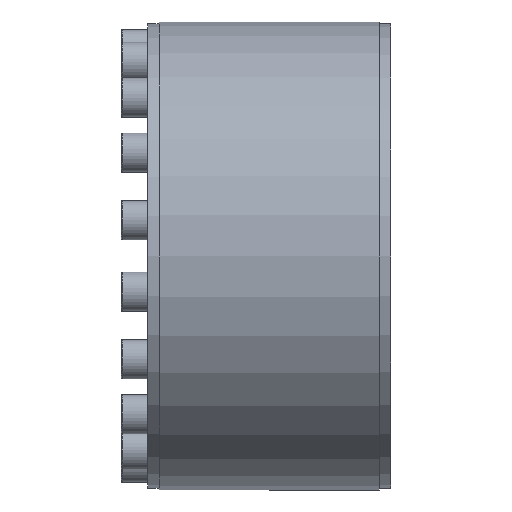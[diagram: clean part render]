
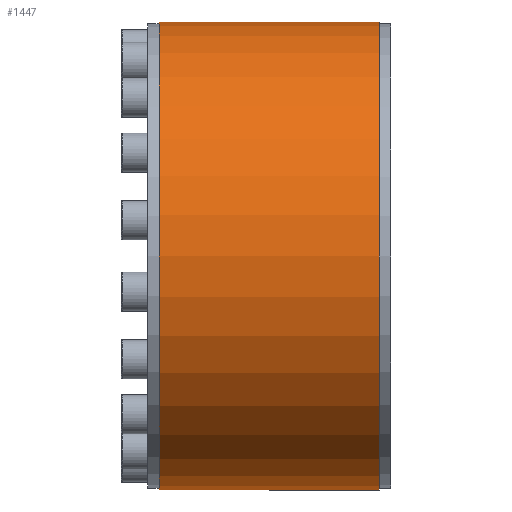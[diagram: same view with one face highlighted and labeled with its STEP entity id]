
A CAD part, left-side view. The second image highlights one B-rep face of the part: STEP entity #1447.
In plain terms, the highlighted cylindrical face has radius 142.5 mm (diameter 285 mm), a partial arc.
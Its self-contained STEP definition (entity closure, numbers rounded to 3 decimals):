
#768 = CARTESIAN_POINT ( 'NONE',  ( 0., 0., 0. ) ) ;
#788 = CARTESIAN_POINT ( 'NONE',  ( 0., 0., 142.5 ) ) ;
#853 = EDGE_LOOP ( 'NONE', ( #2547, #1070, #4213, #2923 ) ) ;
#958 = VERTEX_POINT ( 'NONE', #2811 ) ;
#1024 = AXIS2_PLACEMENT_3D ( 'NONE', #4856, #5370, #2826 ) ;
#1070 = ORIENTED_EDGE ( 'NONE', *, *, #6354, .T. ) ;
#1220 = AXIS2_PLACEMENT_3D ( 'NONE', #768, #6298, #4211 ) ;
#1447 = ADVANCED_FACE ( 'NONE', ( #4377 ), #6448, .T. ) ;
#1930 = DIRECTION ( 'NONE',  ( 0., 0., -1. ) ) ;
#2143 = LINE ( 'NONE', #788, #4483 ) ;
#2212 = DIRECTION ( 'NONE',  ( 0., -1., 0. ) ) ;
#2219 = VECTOR ( 'NONE', #6122, 1000. ) ;
#2547 = ORIENTED_EDGE ( 'NONE', *, *, #4399, .F. ) ;
#2613 = VERTEX_POINT ( 'NONE', #3769 ) ;
#2811 = CARTESIAN_POINT ( 'NONE',  ( 0., 67., 142.5 ) ) ;
#2826 = DIRECTION ( 'NONE',  ( 0., 0., -1. ) ) ;
#2914 = CARTESIAN_POINT ( 'NONE',  ( 0., -67., -142.5 ) ) ;
#2923 = ORIENTED_EDGE ( 'NONE', *, *, #6150, .F. ) ;
#2992 = LINE ( 'NONE', #4076, #2219 ) ;
#3240 = VERTEX_POINT ( 'NONE', #6375 ) ;
#3769 = CARTESIAN_POINT ( 'NONE',  ( 0., -67., 142.5 ) ) ;
#4076 = CARTESIAN_POINT ( 'NONE',  ( 0., 0., -142.5 ) ) ;
#4211 = DIRECTION ( 'NONE',  ( 0., 0., -1. ) ) ;
#4213 = ORIENTED_EDGE ( 'NONE', *, *, #4358, .T. ) ;
#4358 = EDGE_CURVE ( 'NONE', #3240, #4988, #2992, .T. ) ;
#4377 = FACE_OUTER_BOUND ( 'NONE', #853, .T. ) ;
#4399 = EDGE_CURVE ( 'NONE', #958, #2613, #2143, .T. ) ;
#4483 = VECTOR ( 'NONE', #2212, 1000. ) ;
#4799 = AXIS2_PLACEMENT_3D ( 'NONE', #6027, #6007, #1930 ) ;
#4856 = CARTESIAN_POINT ( 'NONE',  ( 0., -67., 0. ) ) ;
#4988 = VERTEX_POINT ( 'NONE', #2914 ) ;
#5370 = DIRECTION ( 'NONE',  ( 0., -1., 0. ) ) ;
#5809 = CIRCLE ( 'NONE', #4799, 142.5 ) ;
#6007 = DIRECTION ( 'NONE',  ( 0., -1., 0. ) ) ;
#6027 = CARTESIAN_POINT ( 'NONE',  ( 0., 67., 0. ) ) ;
#6122 = DIRECTION ( 'NONE',  ( 0., -1., 0. ) ) ;
#6150 = EDGE_CURVE ( 'NONE', #2613, #4988, #6451, .T. ) ;
#6298 = DIRECTION ( 'NONE',  ( 0., -1., 0. ) ) ;
#6354 = EDGE_CURVE ( 'NONE', #958, #3240, #5809, .T. ) ;
#6375 = CARTESIAN_POINT ( 'NONE',  ( 0., 67., -142.5 ) ) ;
#6448 = CYLINDRICAL_SURFACE ( 'NONE', #1220, 142.5 ) ;
#6451 = CIRCLE ( 'NONE', #1024, 142.5 ) ;
